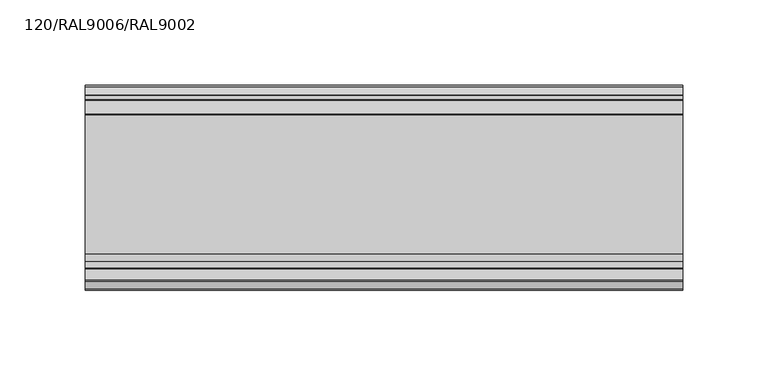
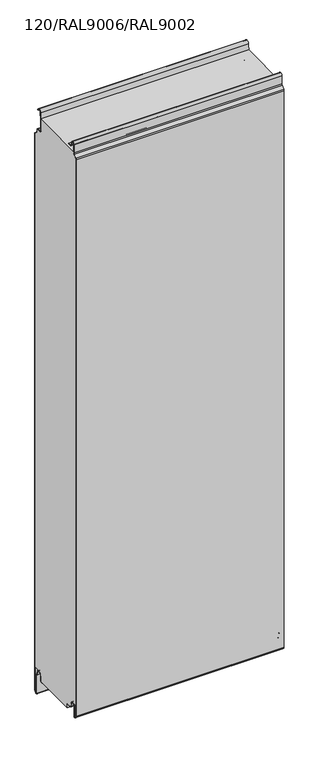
"""IFC4 building model written with IfcOpenShell, lengths in millimetres: plate geometry, TR_C_H_FHL_Panel : 120/RAL9006/RAL9002."""

from ifc_helpers import new_model, si_unit, point, frame, frame_2d, origin, place, context, project, spatial, polyline, circle_curve, trimmed, segment, composite_curve, outline, extrude, source, transform, mapped, element, save


def plate_120_ral9006_ral9002_d842c8b2(model_context):
    return source(origin(), model_context, "Body", "SweptSolid", [
        extrude(outline(composite_curve([segment(polyline([(-17.4455763, 1000.0), (-17.6, 998.2349288), (-17.6, 979.1)]), True, "CONTINUOUS"), segment(trimmed(circle_curve(frame_2d((-14.8, 979.1)), 2.8), [point((-17.6, 979.1))], [point((-14.8, 976.3))], True, "CARTESIAN"), True, "CONTINUOUS"), segment(polyline([(-14.8, 976.3), (-8.9, 976.3)]), True, "CONTINUOUS"), segment(trimmed(circle_curve(frame_2d((-8.9, 974.4)), 1.9), [point((-8.9, 976.3))], [point((-7.0, 974.4))], False, "CARTESIAN"), True, "CONTINUOUS"), segment(polyline([(-7.0, 974.4), (-7.0, 971.5838835)]), True, "CONTINUOUS"), segment(trimmed(circle_curve(frame_2d((-4.2, 971.5838835)), 2.8), [point((-7.0, 971.5838835))], [point((-6.179899, 969.6039845))], True, "CARTESIAN"), True, "CONTINUOUS"), segment(polyline([(-6.179899, 969.6039845), (-1.3564971, 964.7805826)]), True, "CONTINUOUS"), segment(trimmed(circle_curve(frame_2d((-2.7, 963.4370797)), 1.9), [point((-1.3564971, 964.7805826))], [point((-0.8, 963.4370797))], False, "CARTESIAN"), True, "CONTINUOUS"), segment(polyline([(-0.8, 963.4370797), (-0.8, 15.9993484), (-12.3520294, 15.9993484)]), True, "CONTINUOUS"), segment(trimmed(circle_curve(frame_2d((-12.3520294, 11.0993484)), 4.9), [point((-12.3520294, 15.9993484))], [point((-17.2333835, 11.5264116))], True, "CARTESIAN"), True, "CONTINUOUS"), segment(polyline([(-17.2333835, 11.5264116), (-18.0972969, 1.6518352)]), True, "CONTINUOUS"), segment(trimmed(circle_curve(frame_2d((-19.7908279, 1.8)), 1.7), [point((-18.0972969, 1.6518352))], [point((-19.7908279, 0.1))], False, "CARTESIAN"), True, "CONTINUOUS"), segment(polyline([(-19.7908279, 0.1), (-20.8, 0.0), (-94.86, 0.0), (-94.86, 7.9), (-102.3925589, 7.9)]), True, "CONTINUOUS"), segment(trimmed(circle_curve(frame_2d((-102.3925589, 10.85)), 2.95), [point((-102.3925589, 7.9))], [point((-105.2977418, 10.3377379))], False, "CARTESIAN"), True, "CONTINUOUS"), segment(polyline([(-105.2977418, 10.3377379), (-106.364567, 16.3880048)]), True, "CONTINUOUS"), segment(trimmed(circle_curve(frame_2d((-110.55, 15.65)), 4.25), [point((-106.364567, 16.3880048))], [point((-110.55, 19.9))], True, "CARTESIAN"), True, "CONTINUOUS"), segment(polyline([(-110.55, 19.9), (-119.2, 19.9), (-119.2, 989.8218254)]), True, "CONTINUOUS"), segment(trimmed(circle_curve(frame_2d((-117.0, 989.8218254)), 2.2), [point((-119.2, 989.8218254))], [point((-118.5556349, 991.3774603))], False, "CARTESIAN"), True, "CONTINUOUS"), segment(polyline([(-118.5556349, 991.3774603), (-114.1665476, 995.7665476)]), True, "CONTINUOUS"), segment(trimmed(circle_curve(frame_2d((-116.5, 998.1)), 3.3), [point((-114.1665476, 995.7665476))], [point((-113.2, 998.1))], True, "CARTESIAN"), True, "CONTINUOUS"), segment(polyline([(-113.2, 998.1), (-113.2, 1000.0), (-17.4455763, 1000.0)]), True, "CONTINUOUS")], self_intersect=False)), frame((-240.0, 0.0, 0.0), z_axis=(1.0, 0.0, 0.0), x_axis=(0.0, 1.0, 0.0)), (0.0, 0.0, 1.0), 350.0),
        extrude(outline(composite_curve([segment(polyline([(-0.8, -25.1006169), (-0.8, 963.4370797)]), True, "CONTINUOUS"), segment(trimmed(circle_curve(frame_2d((-2.7, 963.4370797)), 1.9), [point((-0.8, 963.4370797))], [point((-1.3564971, 964.7805826))], True, "CARTESIAN"), True, "CONTINUOUS"), segment(polyline([(-1.3564971, 964.7805826), (-6.179899, 969.6039845)]), True, "CONTINUOUS"), segment(trimmed(circle_curve(frame_2d((-4.2, 971.5838835)), 2.8), [point((-6.179899, 969.6039845))], [point((-7.0, 971.5838835))], False, "CARTESIAN"), True, "CONTINUOUS"), segment(polyline([(-7.0, 971.5838835), (-7.0, 974.4)]), True, "CONTINUOUS"), segment(trimmed(circle_curve(frame_2d((-8.9, 974.4)), 1.9), [point((-7.0, 974.4))], [point((-8.9, 976.3))], True, "CARTESIAN"), True, "CONTINUOUS"), segment(polyline([(-8.9, 976.3), (-14.8, 976.3)]), True, "CONTINUOUS"), segment(trimmed(circle_curve(frame_2d((-14.8, 979.1)), 2.8), [point((-14.8, 976.3))], [point((-17.6, 979.1))], False, "CARTESIAN"), True, "CONTINUOUS"), segment(polyline([(-17.6, 979.1), (-17.6, 998.2349288), (-16.5051936, 1010.748623)]), True, "CONTINUOUS"), segment(trimmed(circle_curve(frame_2d((-12.5204148, 1010.4)), 4.0), [point((-16.5051936, 1010.748623))], [point((-8.7383405, 1011.7022726))], False, "CARTESIAN"), True, "CONTINUOUS"), segment(polyline([(-8.7383405, 1011.7022726), (-8.4287263, 1010.8030877), (-9.1851412, 1010.5426332), (-9.4947554, 1011.4418181)]), True, "CONTINUOUS"), segment(trimmed(circle_curve(frame_2d((-12.5204148, 1010.4)), 3.2), [point((-9.4947554, 1011.4418181))], [point((-15.7082379, 1010.6788984))], True, "CARTESIAN"), True, "CONTINUOUS"), segment(polyline([(-15.7082379, 1010.6788984), (-16.8, 998.2), (-16.8, 979.1)]), True, "CONTINUOUS"), segment(trimmed(circle_curve(frame_2d((-14.8, 979.1)), 2.0), [point((-16.8, 979.1))], [point((-14.8, 977.1))], True, "CARTESIAN"), True, "CONTINUOUS"), segment(polyline([(-14.8, 977.1), (-8.9, 977.1)]), True, "CONTINUOUS"), segment(trimmed(circle_curve(frame_2d((-8.9, 974.4)), 2.7), [point((-8.9, 977.1))], [point((-6.2, 974.4))], False, "CARTESIAN"), True, "CONTINUOUS"), segment(polyline([(-6.2, 974.4), (-6.2, 971.5838835)]), True, "CONTINUOUS"), segment(trimmed(circle_curve(frame_2d((-4.2, 971.5838835)), 2.0), [point((-6.2, 971.5838835))], [point((-5.6142136, 970.1696699))], True, "CARTESIAN"), True, "CONTINUOUS"), segment(polyline([(-5.6142136, 970.1696699), (-0.7908117, 965.346268)]), True, "CONTINUOUS"), segment(trimmed(circle_curve(frame_2d((-2.7, 963.4370797)), 2.7), [point((-0.7908117, 965.346268))], [point((0.0, 963.4370797))], False, "CARTESIAN"), True, "CONTINUOUS"), segment(polyline([(0.0, 963.4370797), (0.0, -25.1006169)]), True, "CONTINUOUS"), segment(trimmed(circle_curve(frame_2d((-2.7, -25.1006169)), 2.7), [point((0.0, -25.1006169))], [point((-0.8586044, -27.0752719))], False, "CARTESIAN"), True, "CONTINUOUS"), segment(polyline([(-0.8586044, -27.0752719), (-2.8042031, -28.889572)]), True, "CONTINUOUS"), segment(trimmed(circle_curve(frame_2d((-4.1, -27.5)), 1.9), [point((-2.8042031, -28.889572))], [point((-6.0, -27.5))], False, "CARTESIAN"), True, "CONTINUOUS"), segment(polyline([(-6.0, -27.5), (-6.0, 4.8267282)]), True, "CONTINUOUS"), segment(trimmed(circle_curve(frame_2d((-8.5, 4.8267282)), 2.5), [point((-6.0, 4.8267282))], [point((-6.1362036, 5.6406486))], True, "CARTESIAN"), True, "CONTINUOUS"), segment(polyline([(-6.1362036, 5.6406486), (-8.4754033, 12.4341779)]), True, "CONTINUOUS"), segment(trimmed(circle_curve(frame_2d((-12.3520294, 11.0993484)), 4.1), [point((-8.4754033, 12.4341779))], [point((-16.4364277, 11.456687))], True, "CARTESIAN"), True, "CONTINUOUS"), segment(polyline([(-16.4364277, 11.456687), (-17.3003412, 1.5821106)]), True, "CONTINUOUS"), segment(trimmed(circle_curve(frame_2d((-19.7908279, 1.8)), 2.5), [point((-17.3003412, 1.5821106))], [point((-19.7908279, -0.7))], False, "CARTESIAN"), True, "CONTINUOUS"), segment(polyline([(-19.7908279, -0.7), (-20.8, -0.7), (-20.8, 0.1), (-19.7908279, 0.1)]), True, "CONTINUOUS"), segment(trimmed(circle_curve(frame_2d((-19.7908279, 1.8)), 1.7), [point((-19.7908279, 0.1))], [point((-18.0972969, 1.6518352))], True, "CARTESIAN"), True, "CONTINUOUS"), segment(polyline([(-18.0972969, 1.6518352), (-17.2333835, 11.5264116)]), True, "CONTINUOUS"), segment(trimmed(circle_curve(frame_2d((-12.3520294, 11.0993484)), 4.9), [point((-17.2333835, 11.5264116))], [point((-7.7189884, 12.6946324))], False, "CARTESIAN"), True, "CONTINUOUS"), segment(polyline([(-7.7189884, 12.6946324), (-5.3797887, 5.9011031)]), True, "CONTINUOUS"), segment(trimmed(circle_curve(frame_2d((-8.5, 4.8267282)), 3.3), [point((-5.3797887, 5.9011031))], [point((-5.2, 4.8267282))], False, "CARTESIAN"), True, "CONTINUOUS"), segment(polyline([(-5.2, 4.8267282), (-5.2, -27.5)]), True, "CONTINUOUS"), segment(trimmed(circle_curve(frame_2d((-4.1, -27.5)), 1.1), [point((-5.2, -27.5))], [point((-3.3498018, -28.3044891))], True, "CARTESIAN"), True, "CONTINUOUS"), segment(polyline([(-3.3498018, -28.3044891), (-1.4042031, -26.4901889)]), True, "CONTINUOUS"), segment(trimmed(circle_curve(frame_2d((-2.7, -25.1006169)), 1.9), [point((-1.4042031, -26.4901889))], [point((-0.8, -25.1006169))], True, "CARTESIAN"), True, "CONTINUOUS")], self_intersect=False)), frame((-240.0, 0.0, 0.0), z_axis=(1.0, 0.0, 0.0), x_axis=(0.0, 1.0, 0.0)), (0.0, 0.0, 1.0), 350.0),
        extrude(outline(composite_curve([segment(polyline([(-99.0, 7.1), (-102.3925589, 7.1)]), True, "CONTINUOUS"), segment(trimmed(circle_curve(frame_2d((-102.3925589, 10.85)), 3.75), [point((-102.3925589, 7.1))], [point((-106.085588, 10.1988193))], False, "CARTESIAN"), True, "CONTINUOUS"), segment(polyline([(-106.085588, 10.1988193), (-107.1524133, 16.2490862)]), True, "CONTINUOUS"), segment(trimmed(circle_curve(frame_2d((-110.55, 15.65)), 3.45), [point((-107.1524133, 16.2490862))], [point((-114.0, 15.65))], True, "CARTESIAN"), True, "CONTINUOUS"), segment(polyline([(-114.0, 15.65), (-114.0, -1.95)]), True, "CONTINUOUS"), segment(trimmed(circle_curve(frame_2d((-115.95, -1.95)), 1.95), [point((-114.0, -1.95))], [point((-117.3288582, -3.3288582))], False, "CARTESIAN"), True, "CONTINUOUS"), segment(polyline([(-117.3288582, -3.3288582), (-119.1945436, -1.4631728)]), True, "CONTINUOUS"), segment(trimmed(circle_curve(frame_2d((-117.25, 0.4813708)), 2.75), [point((-119.1945436, -1.4631728))], [point((-120.0, 0.4813708))], False, "CARTESIAN"), True, "CONTINUOUS"), segment(polyline([(-120.0, 0.4813708), (-120.0, 989.8218254)]), True, "CONTINUOUS"), segment(trimmed(circle_curve(frame_2d((-117.0, 989.8218254)), 3.0), [point((-120.0, 989.8218254))], [point((-119.1213203, 991.9431458))], False, "CARTESIAN"), True, "CONTINUOUS"), segment(polyline([(-119.1213203, 991.9431458), (-114.732233, 996.332233)]), True, "CONTINUOUS"), segment(trimmed(circle_curve(frame_2d((-116.5, 998.1)), 2.5), [point((-114.732233, 996.332233))], [point((-114.0, 998.1))], True, "CARTESIAN"), True, "CONTINUOUS"), segment(polyline([(-114.0, 998.1), (-114.0, 1012.85)]), True, "CONTINUOUS"), segment(trimmed(circle_curve(frame_2d((-110.75, 1012.85)), 3.25), [point((-114.0, 1012.85))], [point((-107.5493748, 1013.4143566))], False, "CARTESIAN"), True, "CONTINUOUS"), segment(polyline([(-107.5493748, 1013.4143566), (-106.8060618, 1009.1988193)]), True, "CONTINUOUS"), segment(trimmed(circle_curve(frame_2d((-103.1130328, 1009.85)), 3.75), [point((-106.8060618, 1009.1988193))], [point((-103.1130328, 1006.1))], True, "CARTESIAN"), True, "CONTINUOUS"), segment(polyline([(-103.1130328, 1006.1), (-99.0, 1006.1), (-99.0, 1005.3), (-103.1130328, 1005.3)]), True, "CONTINUOUS"), segment(trimmed(circle_curve(frame_2d((-103.1130328, 1009.85)), 4.55), [point((-103.1130328, 1005.3))], [point((-107.5939081, 1009.0599008))], False, "CARTESIAN"), True, "CONTINUOUS"), segment(polyline([(-107.5939081, 1009.0599008), (-108.337221, 1013.275438)]), True, "CONTINUOUS"), segment(trimmed(circle_curve(frame_2d((-110.75, 1012.85)), 2.45), [point((-108.337221, 1013.275438))], [point((-113.2, 1012.85))], True, "CARTESIAN"), True, "CONTINUOUS"), segment(polyline([(-113.2, 1012.85), (-113.2, 998.1)]), True, "CONTINUOUS"), segment(trimmed(circle_curve(frame_2d((-116.5, 998.1)), 3.3), [point((-113.2, 998.1))], [point((-114.1665476, 995.7665476))], False, "CARTESIAN"), True, "CONTINUOUS"), segment(polyline([(-114.1665476, 995.7665476), (-118.5556349, 991.3774603)]), True, "CONTINUOUS"), segment(trimmed(circle_curve(frame_2d((-117.0, 989.8218254)), 2.2), [point((-118.5556349, 991.3774603))], [point((-119.2, 989.8218254))], True, "CARTESIAN"), True, "CONTINUOUS"), segment(polyline([(-119.2, 989.8218254), (-119.2, 0.4813708)]), True, "CONTINUOUS"), segment(trimmed(circle_curve(frame_2d((-117.25, 0.4813708)), 1.95), [point((-119.2, 0.4813708))], [point((-118.6288582, -0.8974874))], True, "CARTESIAN"), True, "CONTINUOUS"), segment(polyline([(-118.6288582, -0.8974874), (-116.7631728, -2.7631728)]), True, "CONTINUOUS"), segment(trimmed(circle_curve(frame_2d((-115.95, -1.95)), 1.15), [point((-116.7631728, -2.7631728))], [point((-114.8, -1.95))], True, "CARTESIAN"), True, "CONTINUOUS"), segment(polyline([(-114.8, -1.95), (-114.8, 15.65)]), True, "CONTINUOUS"), segment(trimmed(circle_curve(frame_2d((-110.55, 15.65)), 4.25), [point((-114.8, 15.65))], [point((-106.364567, 16.3880048))], False, "CARTESIAN"), True, "CONTINUOUS"), segment(polyline([(-106.364567, 16.3880048), (-105.2977418, 10.3377379)]), True, "CONTINUOUS"), segment(trimmed(circle_curve(frame_2d((-102.3925589, 10.85)), 2.95), [point((-105.2977418, 10.3377379))], [point((-102.3925589, 7.9))], True, "CARTESIAN"), True, "CONTINUOUS"), segment(polyline([(-102.3925589, 7.9), (-99.0, 7.9), (-99.0, 7.1)]), True, "CONTINUOUS")], self_intersect=False)), frame((-240.0, 0.0, 0.0), z_axis=(1.0, 0.0, 0.0), x_axis=(0.0, 1.0, 0.0)), (0.0, 0.0, 1.0), 350.0),
    ])


if __name__ == "__main__":
    model = new_model("IFC4")
    model_context = context("Model", 3, world=origin())
    ifc_project = project(units=[si_unit("LENGTHUNIT", "METRE", prefix="MILLI")], contexts=[model_context])
    site = spatial("IfcSite", under=ifc_project)
    building = spatial("IfcBuilding", under=site)
    placement = place(None, origin())
    plate_120_ral9006_ral9002_shape = plate_120_ral9006_ral9002_d842c8b2(model_context)
    element("IfcPlate", 1, ObjectType="TR_C_H_FHL_Panel : 120/RAL9006/RAL9002", at=placement, inside=building, context=model_context, shape_type="MappedRepresentation", body=[
        mapped(plate_120_ral9006_ral9002_shape, transform((0.0, 0.0, 0.0), x_axis=(1.0, 0.0, 0.0), y_axis=(0.0, 1.0, 0.0), z_axis=(0.0, 0.0, 1.0))),
    ])
    save(model, "model.ifc")
